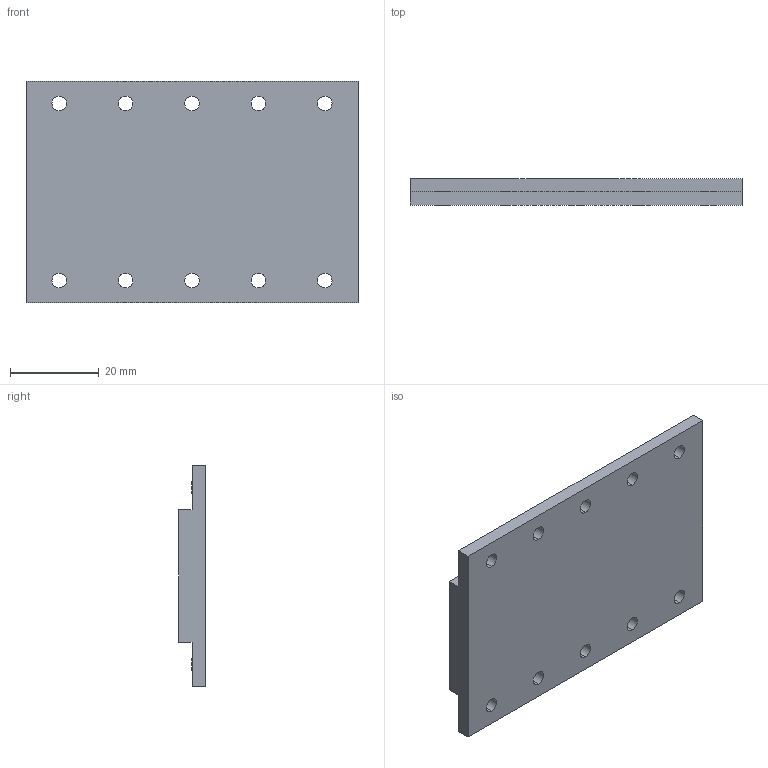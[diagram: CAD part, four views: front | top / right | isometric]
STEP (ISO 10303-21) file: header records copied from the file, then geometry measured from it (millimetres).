
FILE_DESCRIPTION (( 'STEP AP203' ), '1' );
FILE_NAME ('DPN40M75.STEP', '2017-12-15T06:50:45', ( 'Windows 蚚誧' ), ( '' ), 'SwSTEP 2.0', 'SolidWorks 2016', '' );
FILE_SCHEMA (( 'CONFIG_CONTROL_DESIGN' ));
Length unit declared in the file: millimetre
Products named in the file (1): DPN40M75
Bounding box: 75 x 6 x 50 mm (x, y, z)
Volume: 17743.4 mm3; surface area: 9020 mm2
Topology: 1 solids, 1 shells, 30 faces, 84 edges, 56 vertices
Faces by surface type: cylinder 20, plane 10
Entity records: 1105 total; most frequent: DIRECTION 186, CARTESIAN_POINT 171, ORIENTED_EDGE 168, EDGE_CURVE 84, AXIS2_PLACEMENT_3D 71, VERTEX_POINT 56, EDGE_LOOP 50, VECTOR 44
